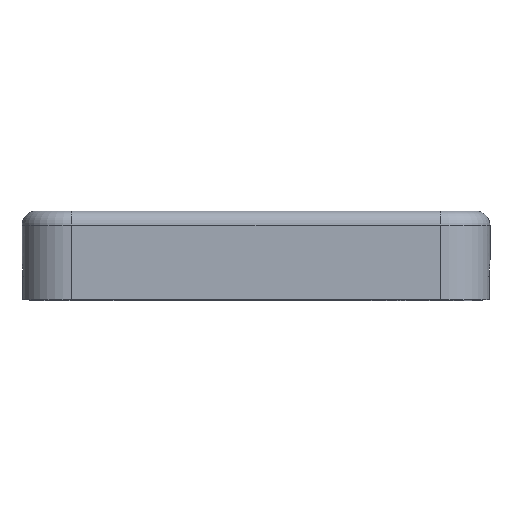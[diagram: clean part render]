
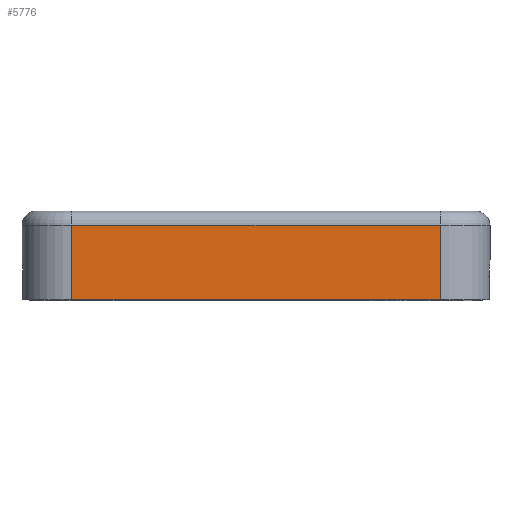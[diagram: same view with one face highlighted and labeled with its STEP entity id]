
A CAD part, top view. The second image highlights one B-rep face of the part: STEP entity #5776.
In plain terms, the highlighted planar face has unit normal (0, 0, 1).
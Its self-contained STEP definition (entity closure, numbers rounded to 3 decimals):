
#1426=DIRECTION('',(0.,1.,0.));
#1427=VECTOR('',#1426,10.5);
#1428=CARTESIAN_POINT('',(26.,0.,52.1));
#1429=LINE('',#1428,#1427);
#1440=DIRECTION('',(-1.,0.,0.));
#1441=VECTOR('',#1440,52.);
#1442=CARTESIAN_POINT('',(26.,0.,52.1));
#1443=LINE('',#1442,#1441);
#1447=DIRECTION('',(-1.,0.,0.));
#1448=VECTOR('',#1447,52.);
#1449=CARTESIAN_POINT('',(26.,10.5,52.1));
#1450=LINE('',#1449,#1448);
#1492=DIRECTION('',(0.,-1.,0.));
#1493=VECTOR('',#1492,10.5);
#1494=CARTESIAN_POINT('',(-26.,10.5,52.1));
#1495=LINE('',#1494,#1493);
#4096=CARTESIAN_POINT('',(-26.,10.5,52.1));
#4097=VERTEX_POINT('',#4096);
#4098=CARTESIAN_POINT('',(-26.,0.,52.1));
#4099=VERTEX_POINT('',#4098);
#4334=CARTESIAN_POINT('',(26.,0.,52.1));
#4335=VERTEX_POINT('',#4334);
#4587=CARTESIAN_POINT('',(26.,10.5,52.1));
#4588=VERTEX_POINT('',#4587);
#5763=CARTESIAN_POINT('',(-33.,0.,52.1));
#5764=DIRECTION('',(0.,0.,-1.));
#5765=DIRECTION('',(0.,1.,0.));
#5766=AXIS2_PLACEMENT_3D('',#5763,#5764,#5765);
#5767=PLANE('',#5766);
#5769=ORIENTED_EDGE('',*,*,#5768,.F.);
#5770=ORIENTED_EDGE('',*,*,#5753,.F.);
#5771=ORIENTED_EDGE('',*,*,#5129,.T.);
#5773=ORIENTED_EDGE('',*,*,#5772,.F.);
#5774=EDGE_LOOP('',(#5769,#5770,#5771,#5773));
#5775=FACE_OUTER_BOUND('',#5774,.F.);
#5129=EDGE_CURVE('',#4335,#4099,#1443,.T.);
#5753=EDGE_CURVE('',#4335,#4588,#1429,.T.);
#5768=EDGE_CURVE('',#4588,#4097,#1450,.T.);
#5772=EDGE_CURVE('',#4097,#4099,#1495,.T.);
#5776=ADVANCED_FACE('',(#5775),#5767,.F.);
